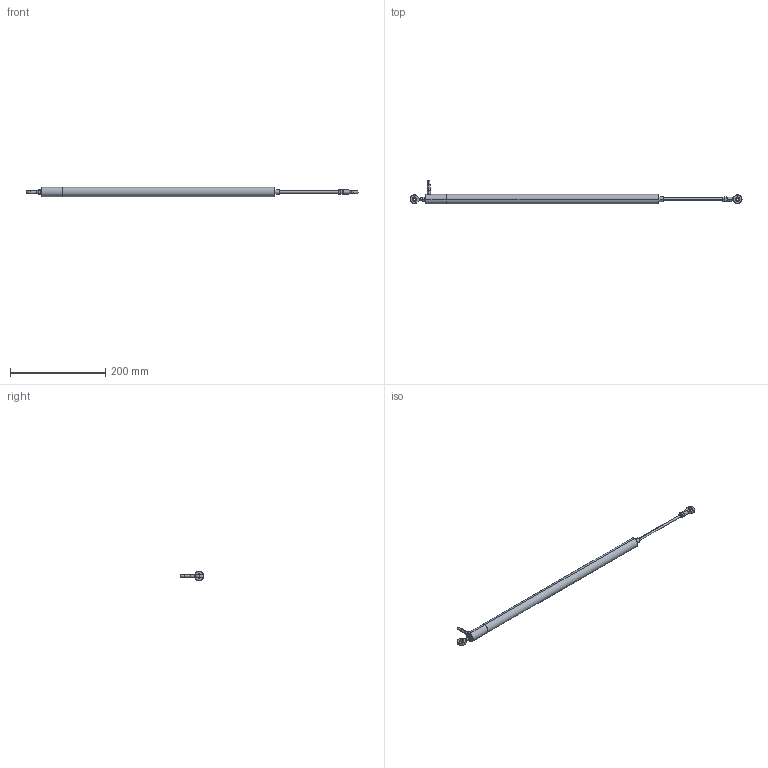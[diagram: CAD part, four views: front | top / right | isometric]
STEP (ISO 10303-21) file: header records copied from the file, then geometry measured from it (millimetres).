
FILE_DESCRIPTION (( 'STEP AP214' ), '1' );
FILE_NAME ('LVIG-200-10V...420A-KRxx.STEP', '2018-11-12T13:33:06', ( '' ), ( '' ), 'SwSTEP 2.0', 'SolidWorks 2015', '' );
FILE_SCHEMA (( 'AUTOMOTIVE_DESIGN' ));
Length unit declared in the file: millimetre
Products named in the file (1): LVIG-200-10V...420A-KRxx
Bounding box: 696 x 49.95 x 19.9 mm (x, y, z)
Volume: 161245.2 mm3; surface area: 39457.9 mm2
Topology: 7 solids, 7 shells, 134 faces, 290 edges, 176 vertices
Faces by surface type: plane 42, cone 42, cylinder 34, sphere 12, torus 4
Entity records: 4135 total; most frequent: CARTESIAN_POINT 969, DIRECTION 628, ORIENTED_EDGE 556, AXIS2_PLACEMENT_3D 281, EDGE_CURVE 278, VERTEX_POINT 168, EDGE_LOOP 150, CIRCLE 146
